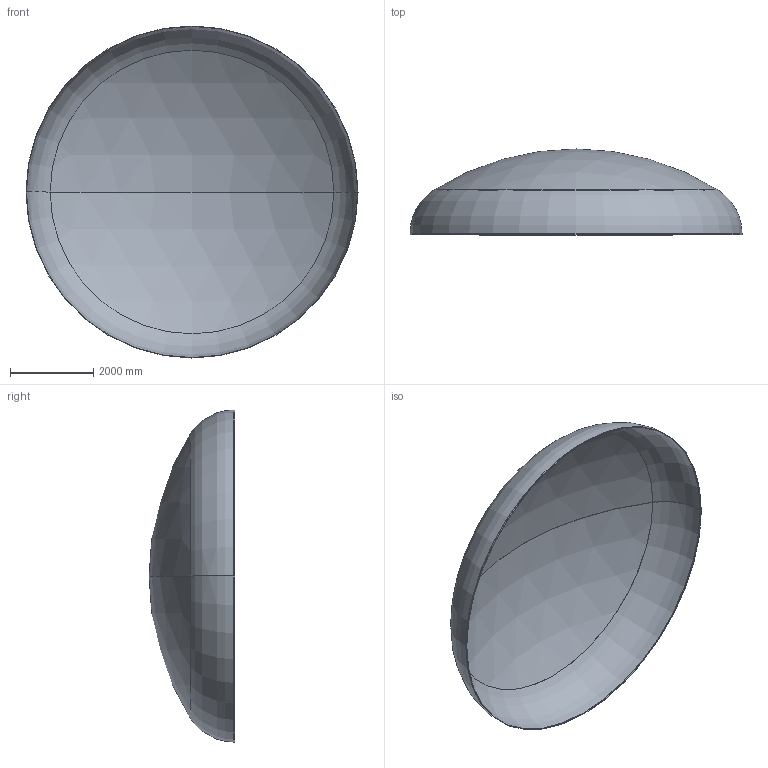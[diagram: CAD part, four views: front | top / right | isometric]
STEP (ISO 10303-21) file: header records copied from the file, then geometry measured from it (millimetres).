
FILE_DESCRIPTION (( 'STEP AP203' ), '1' );
FILE_NAME ('DIN 28013 Korbbogenform_-_Boden DIN 28013 - 8000 x 30 - I - s=9.step', '2016-07-04T10:58:09', ( '' ), ( '' ), 'SwSTEP 2.0', 'SolidWorks 2013', '' );
FILE_SCHEMA (( 'CONFIG_CONTROL_DESIGN' ));
Length unit declared in the file: millimetre
Products named in the file (1): DIN 28013 Korbbogenform_-_Boden DIN 28013 - 8000 x 30 - I - s=9
Bounding box: 8000 x 2067.98 x 8000 mm (x, y, z)
Volume: 632273276.6 mm3; surface area: 140731223.6 mm2
Topology: 1 solids, 1 shells, 13 faces, 24 edges, 14 vertices
Faces by surface type: torus 4, cylinder 4, sphere 4, plane 1
Entity records: 407 total; most frequent: DIRECTION 72, CARTESIAN_POINT 52, ORIENTED_EDGE 48, AXIS2_PLACEMENT_3D 34, EDGE_CURVE 24, CIRCLE 20, VERTEX_POINT 14, EDGE_LOOP 14
